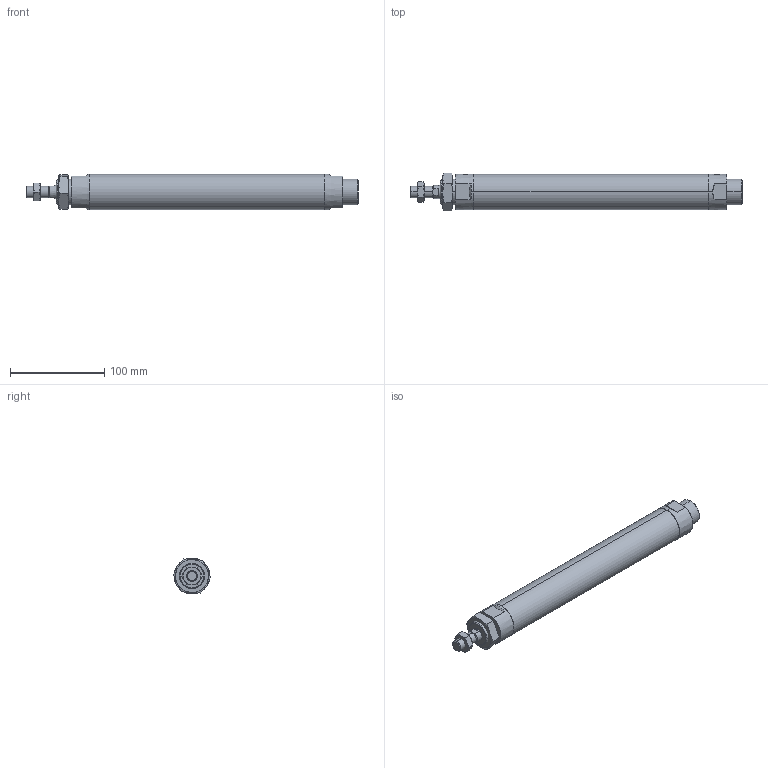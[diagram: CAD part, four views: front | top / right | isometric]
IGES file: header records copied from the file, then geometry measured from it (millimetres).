
Start section: SolidWorks IGES file using analytic representation for surfaces
Global section: file name: C:\Users\Toshiba\Desktop\J#2-32-200-N.IGS; native system: SolidWorks 2014; preprocessor: SolidWorks 2014; author: Toshiba; date: 160308.154342; units: millimetre
Bounding box: 353 x 40.33 x 38 mm (x, y, z)
Surface area: 45647 mm2 (no closed solid volume)
Topology: 0 solids, 0 shells, 94 faces, 1652 edges, 1648 vertices
Faces by surface type: bspline 57, revolution 37
